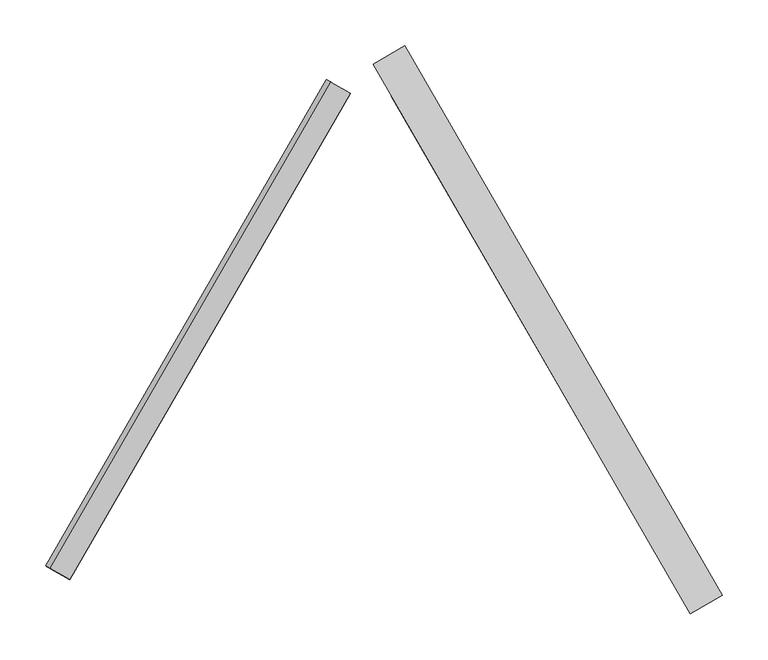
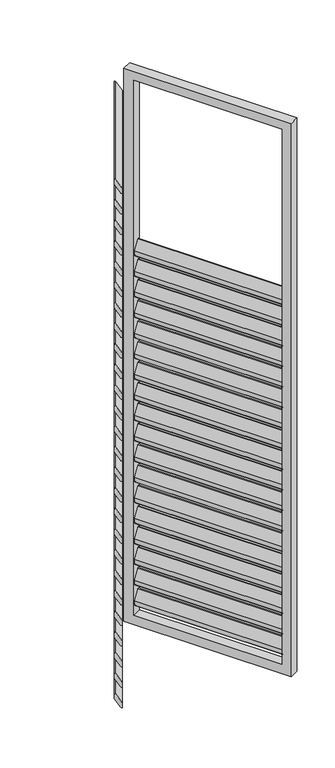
"""IFC4 building model written with IfcOpenShell, lengths in millimetres: proxy geometry, Renson_Amani_Loggia_Paro_Aluminium_Folding : Renson_Amani_Loggia_Paro_Aluminium_Folding."""

from ifc_helpers import new_model, si_unit, point, frame, frame_2d, origin, place, context, project, spatial, polyline, circle_curve, trimmed, segment, composite_curve, outline, extrude, source, transform, mapped, element, save


def generic_models_65c50402(model_context):
    return source(origin(), model_context, "Body", "SweptSolid", [
        extrude(outline(composite_curve([segment(polyline([(-44.0658831, 0.0), (0.8886405, 0.0), (17.0325667, -10.4839883)]), True, "CONTINUOUS"), segment(trimmed(circle_curve(frame_2d((15.3986496, -13.0)), 3.0), [point((17.0325667, -10.4839883))], [point((15.3986496, -16.0))], False, "CARTESIAN"), True, "CONTINUOUS"), segment(polyline([(15.3986496, -16.0), (-28.6672334, -16.0)]), True, "CONTINUOUS"), segment(trimmed(circle_curve(frame_2d((-28.6672334, -13.0)), 3.0), [point((-28.6672334, -16.0))], [point((-30.3011505, -15.5160117))], False, "CARTESIAN"), True, "CONTINUOUS"), segment(polyline([(-30.3011505, -15.5160117), (-45.6998002, -5.5160117)]), True, "CONTINUOUS"), segment(trimmed(circle_curve(frame_2d((-44.0658831, -3.0)), 3.0), [point((-45.6998002, -5.5160117))], [point((-44.0658831, 0.0))], False, "CARTESIAN"), True, "CONTINUOUS")], self_intersect=False)), frame((1092.6094572, 37.7168064, 1677.3359298), z_axis=(-0.5000000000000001, 0.8660254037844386, 0.0), x_axis=(-0.47167124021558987, -0.2723195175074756, -0.8386705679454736)), (0.0, 0.0, 1.0), 612.0),
        extrude(outline(composite_curve([segment(polyline([(-44.0658831, 0.0), (0.8886405, 0.0), (17.0325667, -10.4839883)]), True, "CONTINUOUS"), segment(trimmed(circle_curve(frame_2d((15.3986496, -13.0)), 3.0), [point((17.0325667, -10.4839883))], [point((15.3986496, -16.0))], False, "CARTESIAN"), True, "CONTINUOUS"), segment(polyline([(15.3986496, -16.0), (-28.6672334, -16.0)]), True, "CONTINUOUS"), segment(trimmed(circle_curve(frame_2d((-28.6672334, -13.0)), 3.0), [point((-28.6672334, -16.0))], [point((-30.3011505, -15.5160117))], False, "CARTESIAN"), True, "CONTINUOUS"), segment(polyline([(-30.3011505, -15.5160117), (-45.6998002, -5.5160117)]), True, "CONTINUOUS"), segment(trimmed(circle_curve(frame_2d((-44.0658831, -3.0)), 3.0), [point((-45.6998002, -5.5160117))], [point((-44.0658831, 0.0))], False, "CARTESIAN"), True, "CONTINUOUS")], self_intersect=False)), frame((1092.6094572, 37.7168064, 1587.3359298), z_axis=(-0.5000000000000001, 0.8660254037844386, 0.0), x_axis=(-0.47167124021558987, -0.2723195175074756, -0.8386705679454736)), (0.0, 0.0, 1.0), 612.0),
        extrude(outline(composite_curve([segment(polyline([(-44.0658831, 0.0), (0.8886405, 0.0), (17.0325667, -10.4839883)]), True, "CONTINUOUS"), segment(trimmed(circle_curve(frame_2d((15.3986496, -13.0)), 3.0), [point((17.0325667, -10.4839883))], [point((15.3986496, -16.0))], False, "CARTESIAN"), True, "CONTINUOUS"), segment(polyline([(15.3986496, -16.0), (-28.6672334, -16.0)]), True, "CONTINUOUS"), segment(trimmed(circle_curve(frame_2d((-28.6672334, -13.0)), 3.0), [point((-28.6672334, -16.0))], [point((-30.3011505, -15.5160117))], False, "CARTESIAN"), True, "CONTINUOUS"), segment(polyline([(-30.3011505, -15.5160117), (-45.6998002, -5.5160117)]), True, "CONTINUOUS"), segment(trimmed(circle_curve(frame_2d((-44.0658831, -3.0)), 3.0), [point((-45.6998002, -5.5160117))], [point((-44.0658831, 0.0))], False, "CARTESIAN"), True, "CONTINUOUS")], self_intersect=False)), frame((1092.6094572, 37.7168064, 1497.3359298), z_axis=(-0.5000000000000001, 0.8660254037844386, 0.0), x_axis=(-0.47167124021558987, -0.2723195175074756, -0.8386705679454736)), (0.0, 0.0, 1.0), 612.0),
        extrude(outline(composite_curve([segment(polyline([(-44.0658831, 0.0), (0.8886405, 0.0), (17.0325667, -10.4839883)]), True, "CONTINUOUS"), segment(trimmed(circle_curve(frame_2d((15.3986496, -13.0)), 3.0), [point((17.0325667, -10.4839883))], [point((15.3986496, -16.0))], False, "CARTESIAN"), True, "CONTINUOUS"), segment(polyline([(15.3986496, -16.0), (-28.6672334, -16.0)]), True, "CONTINUOUS"), segment(trimmed(circle_curve(frame_2d((-28.6672334, -13.0)), 3.0), [point((-28.6672334, -16.0))], [point((-30.3011505, -15.5160117))], False, "CARTESIAN"), True, "CONTINUOUS"), segment(polyline([(-30.3011505, -15.5160117), (-45.6998002, -5.5160117)]), True, "CONTINUOUS"), segment(trimmed(circle_curve(frame_2d((-44.0658831, -3.0)), 3.0), [point((-45.6998002, -5.5160117))], [point((-44.0658831, 0.0))], False, "CARTESIAN"), True, "CONTINUOUS")], self_intersect=False)), frame((1092.6094572, 37.7168064, 1407.3359298), z_axis=(-0.5000000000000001, 0.8660254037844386, 0.0), x_axis=(-0.47167124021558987, -0.2723195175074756, -0.8386705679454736)), (0.0, 0.0, 1.0), 612.0),
        extrude(outline(composite_curve([segment(polyline([(-44.0658831, 0.0), (0.8886405, 0.0), (17.0325667, -10.4839883)]), True, "CONTINUOUS"), segment(trimmed(circle_curve(frame_2d((15.3986496, -13.0)), 3.0), [point((17.0325667, -10.4839883))], [point((15.3986496, -16.0))], False, "CARTESIAN"), True, "CONTINUOUS"), segment(polyline([(15.3986496, -16.0), (-28.6672334, -16.0)]), True, "CONTINUOUS"), segment(trimmed(circle_curve(frame_2d((-28.6672334, -13.0)), 3.0), [point((-28.6672334, -16.0))], [point((-30.3011505, -15.5160117))], False, "CARTESIAN"), True, "CONTINUOUS"), segment(polyline([(-30.3011505, -15.5160117), (-45.6998002, -5.5160117)]), True, "CONTINUOUS"), segment(trimmed(circle_curve(frame_2d((-44.0658831, -3.0)), 3.0), [point((-45.6998002, -5.5160117))], [point((-44.0658831, 0.0))], False, "CARTESIAN"), True, "CONTINUOUS")], self_intersect=False)), frame((1092.6094572, 37.7168064, 1317.3359298), z_axis=(-0.5000000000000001, 0.8660254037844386, 0.0), x_axis=(-0.47167124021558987, -0.2723195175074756, -0.8386705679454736)), (0.0, 0.0, 1.0), 612.0),
        extrude(outline(composite_curve([segment(polyline([(-44.0658831, 0.0), (0.8886405, 0.0), (17.0325667, -10.4839883)]), True, "CONTINUOUS"), segment(trimmed(circle_curve(frame_2d((15.3986496, -13.0)), 3.0), [point((17.0325667, -10.4839883))], [point((15.3986496, -16.0))], False, "CARTESIAN"), True, "CONTINUOUS"), segment(polyline([(15.3986496, -16.0), (-28.6672334, -16.0)]), True, "CONTINUOUS"), segment(trimmed(circle_curve(frame_2d((-28.6672334, -13.0)), 3.0), [point((-28.6672334, -16.0))], [point((-30.3011505, -15.5160117))], False, "CARTESIAN"), True, "CONTINUOUS"), segment(polyline([(-30.3011505, -15.5160117), (-45.6998002, -5.5160117)]), True, "CONTINUOUS"), segment(trimmed(circle_curve(frame_2d((-44.0658831, -3.0)), 3.0), [point((-45.6998002, -5.5160117))], [point((-44.0658831, 0.0))], False, "CARTESIAN"), True, "CONTINUOUS")], self_intersect=False)), frame((1092.6094572, 37.7168064, 1227.3359298), z_axis=(-0.5000000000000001, 0.8660254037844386, 0.0), x_axis=(-0.47167124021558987, -0.2723195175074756, -0.8386705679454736)), (0.0, 0.0, 1.0), 612.0),
        extrude(outline(composite_curve([segment(polyline([(-44.0658831, 0.0), (0.8886405, 0.0), (17.0325667, -10.4839883)]), True, "CONTINUOUS"), segment(trimmed(circle_curve(frame_2d((15.3986496, -13.0)), 3.0), [point((17.0325667, -10.4839883))], [point((15.3986496, -16.0))], False, "CARTESIAN"), True, "CONTINUOUS"), segment(polyline([(15.3986496, -16.0), (-28.6672334, -16.0)]), True, "CONTINUOUS"), segment(trimmed(circle_curve(frame_2d((-28.6672334, -13.0)), 3.0), [point((-28.6672334, -16.0))], [point((-30.3011505, -15.5160117))], False, "CARTESIAN"), True, "CONTINUOUS"), segment(polyline([(-30.3011505, -15.5160117), (-45.6998002, -5.5160117)]), True, "CONTINUOUS"), segment(trimmed(circle_curve(frame_2d((-44.0658831, -3.0)), 3.0), [point((-45.6998002, -5.5160117))], [point((-44.0658831, 0.0))], False, "CARTESIAN"), True, "CONTINUOUS")], self_intersect=False)), frame((1092.6094572, 37.7168064, 1137.3359298), z_axis=(-0.5000000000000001, 0.8660254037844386, 0.0), x_axis=(-0.47167124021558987, -0.2723195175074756, -0.8386705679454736)), (0.0, 0.0, 1.0), 612.0),
        extrude(outline(composite_curve([segment(polyline([(-44.0658831, 0.0), (0.8886405, 0.0), (17.0325667, -10.4839883)]), True, "CONTINUOUS"), segment(trimmed(circle_curve(frame_2d((15.3986496, -13.0)), 3.0), [point((17.0325667, -10.4839883))], [point((15.3986496, -16.0))], False, "CARTESIAN"), True, "CONTINUOUS"), segment(polyline([(15.3986496, -16.0), (-28.6672334, -16.0)]), True, "CONTINUOUS"), segment(trimmed(circle_curve(frame_2d((-28.6672334, -13.0)), 3.0), [point((-28.6672334, -16.0))], [point((-30.3011505, -15.5160117))], False, "CARTESIAN"), True, "CONTINUOUS"), segment(polyline([(-30.3011505, -15.5160117), (-45.6998002, -5.5160117)]), True, "CONTINUOUS"), segment(trimmed(circle_curve(frame_2d((-44.0658831, -3.0)), 3.0), [point((-45.6998002, -5.5160117))], [point((-44.0658831, 0.0))], False, "CARTESIAN"), True, "CONTINUOUS")], self_intersect=False)), frame((1092.6094572, 37.7168064, 1047.3359298), z_axis=(-0.5000000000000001, 0.8660254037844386, 0.0), x_axis=(-0.47167124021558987, -0.2723195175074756, -0.8386705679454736)), (0.0, 0.0, 1.0), 612.0),
        extrude(outline(composite_curve([segment(polyline([(-44.0658831, 0.0), (0.8886405, 0.0), (17.0325667, -10.4839883)]), True, "CONTINUOUS"), segment(trimmed(circle_curve(frame_2d((15.3986496, -13.0)), 3.0), [point((17.0325667, -10.4839883))], [point((15.3986496, -16.0))], False, "CARTESIAN"), True, "CONTINUOUS"), segment(polyline([(15.3986496, -16.0), (-28.6672334, -16.0)]), True, "CONTINUOUS"), segment(trimmed(circle_curve(frame_2d((-28.6672334, -13.0)), 3.0), [point((-28.6672334, -16.0))], [point((-30.3011505, -15.5160117))], False, "CARTESIAN"), True, "CONTINUOUS"), segment(polyline([(-30.3011505, -15.5160117), (-45.6998002, -5.5160117)]), True, "CONTINUOUS"), segment(trimmed(circle_curve(frame_2d((-44.0658831, -3.0)), 3.0), [point((-45.6998002, -5.5160117))], [point((-44.0658831, 0.0))], False, "CARTESIAN"), True, "CONTINUOUS")], self_intersect=False)), frame((1092.6094572, 37.7168064, 957.3359298), z_axis=(-0.5000000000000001, 0.8660254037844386, 0.0), x_axis=(-0.47167124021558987, -0.2723195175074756, -0.8386705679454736)), (0.0, 0.0, 1.0), 612.0),
        extrude(outline(composite_curve([segment(polyline([(-44.0658831, 0.0), (0.8886405, 0.0), (17.0325667, -10.4839883)]), True, "CONTINUOUS"), segment(trimmed(circle_curve(frame_2d((15.3986496, -13.0)), 3.0), [point((17.0325667, -10.4839883))], [point((15.3986496, -16.0))], False, "CARTESIAN"), True, "CONTINUOUS"), segment(polyline([(15.3986496, -16.0), (-28.6672334, -16.0)]), True, "CONTINUOUS"), segment(trimmed(circle_curve(frame_2d((-28.6672334, -13.0)), 3.0), [point((-28.6672334, -16.0))], [point((-30.3011505, -15.5160117))], False, "CARTESIAN"), True, "CONTINUOUS"), segment(polyline([(-30.3011505, -15.5160117), (-45.6998002, -5.5160117)]), True, "CONTINUOUS"), segment(trimmed(circle_curve(frame_2d((-44.0658831, -3.0)), 3.0), [point((-45.6998002, -5.5160117))], [point((-44.0658831, 0.0))], False, "CARTESIAN"), True, "CONTINUOUS")], self_intersect=False)), frame((1092.6094572, 37.7168064, 867.3359298), z_axis=(-0.5000000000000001, 0.8660254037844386, 0.0), x_axis=(-0.47167124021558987, -0.2723195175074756, -0.8386705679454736)), (0.0, 0.0, 1.0), 612.0),
        extrude(outline(composite_curve([segment(polyline([(-44.0658831, 0.0), (0.8886405, 0.0), (17.0325667, -10.4839883)]), True, "CONTINUOUS"), segment(trimmed(circle_curve(frame_2d((15.3986496, -13.0)), 3.0), [point((17.0325667, -10.4839883))], [point((15.3986496, -16.0))], False, "CARTESIAN"), True, "CONTINUOUS"), segment(polyline([(15.3986496, -16.0), (-28.6672334, -16.0)]), True, "CONTINUOUS"), segment(trimmed(circle_curve(frame_2d((-28.6672334, -13.0)), 3.0), [point((-28.6672334, -16.0))], [point((-30.3011505, -15.5160117))], False, "CARTESIAN"), True, "CONTINUOUS"), segment(polyline([(-30.3011505, -15.5160117), (-45.6998002, -5.5160117)]), True, "CONTINUOUS"), segment(trimmed(circle_curve(frame_2d((-44.0658831, -3.0)), 3.0), [point((-45.6998002, -5.5160117))], [point((-44.0658831, 0.0))], False, "CARTESIAN"), True, "CONTINUOUS")], self_intersect=False)), frame((1092.6094572, 37.7168064, 777.3359298), z_axis=(-0.5000000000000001, 0.8660254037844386, 0.0), x_axis=(-0.47167124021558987, -0.2723195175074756, -0.8386705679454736)), (0.0, 0.0, 1.0), 612.0),
        extrude(outline(composite_curve([segment(polyline([(-44.0658831, 0.0), (0.8886405, 0.0), (17.0325667, -10.4839883)]), True, "CONTINUOUS"), segment(trimmed(circle_curve(frame_2d((15.3986496, -13.0)), 3.0), [point((17.0325667, -10.4839883))], [point((15.3986496, -16.0))], False, "CARTESIAN"), True, "CONTINUOUS"), segment(polyline([(15.3986496, -16.0), (-28.6672334, -16.0)]), True, "CONTINUOUS"), segment(trimmed(circle_curve(frame_2d((-28.6672334, -13.0)), 3.0), [point((-28.6672334, -16.0))], [point((-30.3011505, -15.5160117))], False, "CARTESIAN"), True, "CONTINUOUS"), segment(polyline([(-30.3011505, -15.5160117), (-45.6998002, -5.5160117)]), True, "CONTINUOUS"), segment(trimmed(circle_curve(frame_2d((-44.0658831, -3.0)), 3.0), [point((-45.6998002, -5.5160117))], [point((-44.0658831, 0.0))], False, "CARTESIAN"), True, "CONTINUOUS")], self_intersect=False)), frame((1092.6094572, 37.7168064, 687.3359298), z_axis=(-0.5000000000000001, 0.8660254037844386, 0.0), x_axis=(-0.47167124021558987, -0.2723195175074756, -0.8386705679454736)), (0.0, 0.0, 1.0), 612.0),
        extrude(outline(composite_curve([segment(polyline([(-44.0658831, 0.0), (0.8886405, 0.0), (17.0325667, -10.4839883)]), True, "CONTINUOUS"), segment(trimmed(circle_curve(frame_2d((15.3986496, -13.0)), 3.0), [point((17.0325667, -10.4839883))], [point((15.3986496, -16.0))], False, "CARTESIAN"), True, "CONTINUOUS"), segment(polyline([(15.3986496, -16.0), (-28.6672334, -16.0)]), True, "CONTINUOUS"), segment(trimmed(circle_curve(frame_2d((-28.6672334, -13.0)), 3.0), [point((-28.6672334, -16.0))], [point((-30.3011505, -15.5160117))], False, "CARTESIAN"), True, "CONTINUOUS"), segment(polyline([(-30.3011505, -15.5160117), (-45.6998002, -5.5160117)]), True, "CONTINUOUS"), segment(trimmed(circle_curve(frame_2d((-44.0658831, -3.0)), 3.0), [point((-45.6998002, -5.5160117))], [point((-44.0658831, 0.0))], False, "CARTESIAN"), True, "CONTINUOUS")], self_intersect=False)), frame((1092.6094572, 37.7168064, 597.3359298), z_axis=(-0.5000000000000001, 0.8660254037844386, 0.0), x_axis=(-0.47167124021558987, -0.2723195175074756, -0.8386705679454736)), (0.0, 0.0, 1.0), 612.0),
        extrude(outline(composite_curve([segment(polyline([(-44.0658831, 0.0), (0.8886405, 0.0), (17.0325667, -10.4839883)]), True, "CONTINUOUS"), segment(trimmed(circle_curve(frame_2d((15.3986496, -13.0)), 3.0), [point((17.0325667, -10.4839883))], [point((15.3986496, -16.0))], False, "CARTESIAN"), True, "CONTINUOUS"), segment(polyline([(15.3986496, -16.0), (-28.6672334, -16.0)]), True, "CONTINUOUS"), segment(trimmed(circle_curve(frame_2d((-28.6672334, -13.0)), 3.0), [point((-28.6672334, -16.0))], [point((-30.3011505, -15.5160117))], False, "CARTESIAN"), True, "CONTINUOUS"), segment(polyline([(-30.3011505, -15.5160117), (-45.6998002, -5.5160117)]), True, "CONTINUOUS"), segment(trimmed(circle_curve(frame_2d((-44.0658831, -3.0)), 3.0), [point((-45.6998002, -5.5160117))], [point((-44.0658831, 0.0))], False, "CARTESIAN"), True, "CONTINUOUS")], self_intersect=False)), frame((1092.6094572, 37.7168064, 507.3359298), z_axis=(-0.5000000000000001, 0.8660254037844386, 0.0), x_axis=(-0.47167124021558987, -0.2723195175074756, -0.8386705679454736)), (0.0, 0.0, 1.0), 612.0),
        extrude(outline(composite_curve([segment(polyline([(-44.0658831, 0.0), (0.8886405, 0.0), (17.0325667, -10.4839883)]), True, "CONTINUOUS"), segment(trimmed(circle_curve(frame_2d((15.3986496, -13.0)), 3.0), [point((17.0325667, -10.4839883))], [point((15.3986496, -16.0))], False, "CARTESIAN"), True, "CONTINUOUS"), segment(polyline([(15.3986496, -16.0), (-28.6672334, -16.0)]), True, "CONTINUOUS"), segment(trimmed(circle_curve(frame_2d((-28.6672334, -13.0)), 3.0), [point((-28.6672334, -16.0))], [point((-30.3011505, -15.5160117))], False, "CARTESIAN"), True, "CONTINUOUS"), segment(polyline([(-30.3011505, -15.5160117), (-45.6998002, -5.5160117)]), True, "CONTINUOUS"), segment(trimmed(circle_curve(frame_2d((-44.0658831, -3.0)), 3.0), [point((-45.6998002, -5.5160117))], [point((-44.0658831, 0.0))], False, "CARTESIAN"), True, "CONTINUOUS")], self_intersect=False)), frame((1092.6094572, 37.7168064, 417.3359298), z_axis=(-0.5000000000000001, 0.8660254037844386, 0.0), x_axis=(-0.47167124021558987, -0.2723195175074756, -0.8386705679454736)), (0.0, 0.0, 1.0), 612.0),
        extrude(outline(composite_curve([segment(polyline([(-44.0658831, 0.0), (0.8886405, 0.0), (17.0325667, -10.4839883)]), True, "CONTINUOUS"), segment(trimmed(circle_curve(frame_2d((15.3986496, -13.0)), 3.0), [point((17.0325667, -10.4839883))], [point((15.3986496, -16.0))], False, "CARTESIAN"), True, "CONTINUOUS"), segment(polyline([(15.3986496, -16.0), (-28.6672334, -16.0)]), True, "CONTINUOUS"), segment(trimmed(circle_curve(frame_2d((-28.6672334, -13.0)), 3.0), [point((-28.6672334, -16.0))], [point((-30.3011505, -15.5160117))], False, "CARTESIAN"), True, "CONTINUOUS"), segment(polyline([(-30.3011505, -15.5160117), (-45.6998002, -5.5160117)]), True, "CONTINUOUS"), segment(trimmed(circle_curve(frame_2d((-44.0658831, -3.0)), 3.0), [point((-45.6998002, -5.5160117))], [point((-44.0658831, 0.0))], False, "CARTESIAN"), True, "CONTINUOUS")], self_intersect=False)), frame((1092.6094572, 37.7168064, 327.3359298), z_axis=(-0.5000000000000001, 0.8660254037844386, 0.0), x_axis=(-0.47167124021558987, -0.2723195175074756, -0.8386705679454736)), (0.0, 0.0, 1.0), 612.0),
        extrude(outline(composite_curve([segment(polyline([(-44.0658831, 0.0), (0.8886405, 0.0), (17.0325667, -10.4839883)]), True, "CONTINUOUS"), segment(trimmed(circle_curve(frame_2d((15.3986496, -13.0)), 3.0), [point((17.0325667, -10.4839883))], [point((15.3986496, -16.0))], False, "CARTESIAN"), True, "CONTINUOUS"), segment(polyline([(15.3986496, -16.0), (-28.6672334, -16.0)]), True, "CONTINUOUS"), segment(trimmed(circle_curve(frame_2d((-28.6672334, -13.0)), 3.0), [point((-28.6672334, -16.0))], [point((-30.3011505, -15.5160117))], False, "CARTESIAN"), True, "CONTINUOUS"), segment(polyline([(-30.3011505, -15.5160117), (-45.6998002, -5.5160117)]), True, "CONTINUOUS"), segment(trimmed(circle_curve(frame_2d((-44.0658831, -3.0)), 3.0), [point((-45.6998002, -5.5160117))], [point((-44.0658831, 0.0))], False, "CARTESIAN"), True, "CONTINUOUS")], self_intersect=False)), frame((1092.6094572, 37.7168064, 237.3359298), z_axis=(-0.5000000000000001, 0.8660254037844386, 0.0), x_axis=(-0.47167124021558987, -0.2723195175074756, -0.8386705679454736)), (0.0, 0.0, 1.0), 612.0),
        extrude(outline(composite_curve([segment(polyline([(-44.0658831, 0.0), (0.8886405, 0.0), (17.0325667, -10.4839883)]), True, "CONTINUOUS"), segment(trimmed(circle_curve(frame_2d((15.3986496, -13.0)), 3.0), [point((17.0325667, -10.4839883))], [point((15.3986496, -16.0))], False, "CARTESIAN"), True, "CONTINUOUS"), segment(polyline([(15.3986496, -16.0), (-28.6672334, -16.0)]), True, "CONTINUOUS"), segment(trimmed(circle_curve(frame_2d((-28.6672334, -13.0)), 3.0), [point((-28.6672334, -16.0))], [point((-30.3011505, -15.5160117))], False, "CARTESIAN"), True, "CONTINUOUS"), segment(polyline([(-30.3011505, -15.5160117), (-45.6998002, -5.5160117)]), True, "CONTINUOUS"), segment(trimmed(circle_curve(frame_2d((-44.0658831, -3.0)), 3.0), [point((-45.6998002, -5.5160117))], [point((-44.0658831, 0.0))], False, "CARTESIAN"), True, "CONTINUOUS")], self_intersect=False)), frame((1092.6094572, 37.7168064, 147.3359298), z_axis=(-0.5000000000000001, 0.8660254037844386, 0.0), x_axis=(-0.47167124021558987, -0.2723195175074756, -0.8386705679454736)), (0.0, 0.0, 1.0), 612.0),
        extrude(outline(polyline([(2380.0, -40.0), (-40.0, -40.0), (-40.0, 652.0), (2380.0, 652.0), (2380.0, -40.0)]), holes=[polyline([(2340.0, 612.0), (0.0, 612.0), (0.0, 0.0), (2340.0, 0.0), (2340.0, 612.0)])]), frame((781.2820323, 564.6485633, 85.0), z_axis=(0.8660254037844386, 0.5000000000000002, 0.0), x_axis=(0.0, 0.0, 1.0)), (0.0, 0.0, 1.0), 40.0),
        extrude(outline(composite_curve([segment(trimmed(circle_curve(frame_2d((44.0658831, -3.0)), 3.0), [point((44.0658831, 0.0))], [point((45.6998002, -5.5160117))], False, "CARTESIAN"), True, "CONTINUOUS"), segment(polyline([(45.6998002, -5.5160117), (30.3011505, -15.5160117)]), True, "CONTINUOUS"), segment(trimmed(circle_curve(frame_2d((28.6672334, -13.0)), 3.0), [point((30.3011505, -15.5160117))], [point((28.6672334, -16.0))], False, "CARTESIAN"), True, "CONTINUOUS"), segment(polyline([(28.6672334, -16.0), (-15.3986496, -16.0)]), True, "CONTINUOUS"), segment(trimmed(circle_curve(frame_2d((-15.3986496, -13.0)), 3.0), [point((-15.3986496, -16.0))], [point((-17.0325667, -10.4839883))], False, "CARTESIAN"), True, "CONTINUOUS"), segment(polyline([(-17.0325667, -10.4839883), (-0.8886405, 0.0), (44.0658831, 0.0)]), True, "CONTINUOUS")], self_intersect=False)), frame((429.9546074, 37.7168064, 2397.3359298), z_axis=(0.5000000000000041, 0.8660254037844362, 0.0), x_axis=(-0.47167124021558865, 0.2723195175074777, 0.8386705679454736)), (0.0, 0.0, 1.0), 612.0),
        extrude(outline(composite_curve([segment(trimmed(circle_curve(frame_2d((44.0658831, -3.0)), 3.0), [point((44.0658831, 0.0))], [point((45.6998002, -5.5160117))], False, "CARTESIAN"), True, "CONTINUOUS"), segment(polyline([(45.6998002, -5.5160117), (30.3011505, -15.5160117)]), True, "CONTINUOUS"), segment(trimmed(circle_curve(frame_2d((28.6672334, -13.0)), 3.0), [point((30.3011505, -15.5160117))], [point((28.6672334, -16.0))], False, "CARTESIAN"), True, "CONTINUOUS"), segment(polyline([(28.6672334, -16.0), (-15.3986496, -16.0)]), True, "CONTINUOUS"), segment(trimmed(circle_curve(frame_2d((-15.3986496, -13.0)), 3.0), [point((-15.3986496, -16.0))], [point((-17.0325667, -10.4839883))], False, "CARTESIAN"), True, "CONTINUOUS"), segment(polyline([(-17.0325667, -10.4839883), (-0.8886405, 0.0), (44.0658831, 0.0)]), True, "CONTINUOUS")], self_intersect=False)), frame((429.9546074, 37.7168064, 2307.3359298), z_axis=(0.5000000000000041, 0.8660254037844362, 0.0), x_axis=(-0.47167124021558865, 0.2723195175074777, 0.8386705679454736)), (0.0, 0.0, 1.0), 612.0),
        extrude(outline(composite_curve([segment(trimmed(circle_curve(frame_2d((44.0658831, -3.0)), 3.0), [point((44.0658831, 0.0))], [point((45.6998002, -5.5160117))], False, "CARTESIAN"), True, "CONTINUOUS"), segment(polyline([(45.6998002, -5.5160117), (30.3011505, -15.5160117)]), True, "CONTINUOUS"), segment(trimmed(circle_curve(frame_2d((28.6672334, -13.0)), 3.0), [point((30.3011505, -15.5160117))], [point((28.6672334, -16.0))], False, "CARTESIAN"), True, "CONTINUOUS"), segment(polyline([(28.6672334, -16.0), (-15.3986496, -16.0)]), True, "CONTINUOUS"), segment(trimmed(circle_curve(frame_2d((-15.3986496, -13.0)), 3.0), [point((-15.3986496, -16.0))], [point((-17.0325667, -10.4839883))], False, "CARTESIAN"), True, "CONTINUOUS"), segment(polyline([(-17.0325667, -10.4839883), (-0.8886405, 0.0), (44.0658831, 0.0)]), True, "CONTINUOUS")], self_intersect=False)), frame((429.9546074, 37.7168064, 2217.3359298), z_axis=(0.5000000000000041, 0.8660254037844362, 0.0), x_axis=(-0.47167124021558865, 0.2723195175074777, 0.8386705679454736)), (0.0, 0.0, 1.0), 612.0),
        extrude(outline(composite_curve([segment(trimmed(circle_curve(frame_2d((44.0658831, -3.0)), 3.0), [point((44.0658831, 0.0))], [point((45.6998002, -5.5160117))], False, "CARTESIAN"), True, "CONTINUOUS"), segment(polyline([(45.6998002, -5.5160117), (30.3011505, -15.5160117)]), True, "CONTINUOUS"), segment(trimmed(circle_curve(frame_2d((28.6672334, -13.0)), 3.0), [point((30.3011505, -15.5160117))], [point((28.6672334, -16.0))], False, "CARTESIAN"), True, "CONTINUOUS"), segment(polyline([(28.6672334, -16.0), (-15.3986496, -16.0)]), True, "CONTINUOUS"), segment(trimmed(circle_curve(frame_2d((-15.3986496, -13.0)), 3.0), [point((-15.3986496, -16.0))], [point((-17.0325667, -10.4839883))], False, "CARTESIAN"), True, "CONTINUOUS"), segment(polyline([(-17.0325667, -10.4839883), (-0.8886405, 0.0), (44.0658831, 0.0)]), True, "CONTINUOUS")], self_intersect=False)), frame((429.9546074, 37.7168064, 2127.3359298), z_axis=(0.5000000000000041, 0.8660254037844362, 0.0), x_axis=(-0.47167124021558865, 0.2723195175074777, 0.8386705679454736)), (0.0, 0.0, 1.0), 612.0),
        extrude(outline(composite_curve([segment(trimmed(circle_curve(frame_2d((44.0658831, -3.0)), 3.0), [point((44.0658831, 0.0))], [point((45.6998002, -5.5160117))], False, "CARTESIAN"), True, "CONTINUOUS"), segment(polyline([(45.6998002, -5.5160117), (30.3011505, -15.5160117)]), True, "CONTINUOUS"), segment(trimmed(circle_curve(frame_2d((28.6672334, -13.0)), 3.0), [point((30.3011505, -15.5160117))], [point((28.6672334, -16.0))], False, "CARTESIAN"), True, "CONTINUOUS"), segment(polyline([(28.6672334, -16.0), (-15.3986496, -16.0)]), True, "CONTINUOUS"), segment(trimmed(circle_curve(frame_2d((-15.3986496, -13.0)), 3.0), [point((-15.3986496, -16.0))], [point((-17.0325667, -10.4839883))], False, "CARTESIAN"), True, "CONTINUOUS"), segment(polyline([(-17.0325667, -10.4839883), (-0.8886405, 0.0), (44.0658831, 0.0)]), True, "CONTINUOUS")], self_intersect=False)), frame((429.9546074, 37.7168064, 2037.3359298), z_axis=(0.5000000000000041, 0.8660254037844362, 0.0), x_axis=(-0.47167124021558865, 0.2723195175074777, 0.8386705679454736)), (0.0, 0.0, 1.0), 612.0),
        extrude(outline(composite_curve([segment(trimmed(circle_curve(frame_2d((44.0658831, -3.0)), 3.0), [point((44.0658831, 0.0))], [point((45.6998002, -5.5160117))], False, "CARTESIAN"), True, "CONTINUOUS"), segment(polyline([(45.6998002, -5.5160117), (30.3011505, -15.5160117)]), True, "CONTINUOUS"), segment(trimmed(circle_curve(frame_2d((28.6672334, -13.0)), 3.0), [point((30.3011505, -15.5160117))], [point((28.6672334, -16.0))], False, "CARTESIAN"), True, "CONTINUOUS"), segment(polyline([(28.6672334, -16.0), (-15.3986496, -16.0)]), True, "CONTINUOUS"), segment(trimmed(circle_curve(frame_2d((-15.3986496, -13.0)), 3.0), [point((-15.3986496, -16.0))], [point((-17.0325667, -10.4839883))], False, "CARTESIAN"), True, "CONTINUOUS"), segment(polyline([(-17.0325667, -10.4839883), (-0.8886405, 0.0), (44.0658831, 0.0)]), True, "CONTINUOUS")], self_intersect=False)), frame((429.9546074, 37.7168064, 1947.3359298), z_axis=(0.5000000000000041, 0.8660254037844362, 0.0), x_axis=(-0.47167124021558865, 0.2723195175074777, 0.8386705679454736)), (0.0, 0.0, 1.0), 612.0),
        extrude(outline(composite_curve([segment(trimmed(circle_curve(frame_2d((44.0658831, -3.0)), 3.0), [point((44.0658831, 0.0))], [point((45.6998002, -5.5160117))], False, "CARTESIAN"), True, "CONTINUOUS"), segment(polyline([(45.6998002, -5.5160117), (30.3011505, -15.5160117)]), True, "CONTINUOUS"), segment(trimmed(circle_curve(frame_2d((28.6672334, -13.0)), 3.0), [point((30.3011505, -15.5160117))], [point((28.6672334, -16.0))], False, "CARTESIAN"), True, "CONTINUOUS"), segment(polyline([(28.6672334, -16.0), (-15.3986496, -16.0)]), True, "CONTINUOUS"), segment(trimmed(circle_curve(frame_2d((-15.3986496, -13.0)), 3.0), [point((-15.3986496, -16.0))], [point((-17.0325667, -10.4839883))], False, "CARTESIAN"), True, "CONTINUOUS"), segment(polyline([(-17.0325667, -10.4839883), (-0.8886405, 0.0), (44.0658831, 0.0)]), True, "CONTINUOUS")], self_intersect=False)), frame((429.9546074, 37.7168064, 1857.3359298), z_axis=(0.5000000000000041, 0.8660254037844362, 0.0), x_axis=(-0.47167124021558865, 0.2723195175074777, 0.8386705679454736)), (0.0, 0.0, 1.0), 612.0),
        extrude(outline(composite_curve([segment(trimmed(circle_curve(frame_2d((44.0658831, -3.0)), 3.0), [point((44.0658831, 0.0))], [point((45.6998002, -5.5160117))], False, "CARTESIAN"), True, "CONTINUOUS"), segment(polyline([(45.6998002, -5.5160117), (30.3011505, -15.5160117)]), True, "CONTINUOUS"), segment(trimmed(circle_curve(frame_2d((28.6672334, -13.0)), 3.0), [point((30.3011505, -15.5160117))], [point((28.6672334, -16.0))], False, "CARTESIAN"), True, "CONTINUOUS"), segment(polyline([(28.6672334, -16.0), (-15.3986496, -16.0)]), True, "CONTINUOUS"), segment(trimmed(circle_curve(frame_2d((-15.3986496, -13.0)), 3.0), [point((-15.3986496, -16.0))], [point((-17.0325667, -10.4839883))], False, "CARTESIAN"), True, "CONTINUOUS"), segment(polyline([(-17.0325667, -10.4839883), (-0.8886405, 0.0), (44.0658831, 0.0)]), True, "CONTINUOUS")], self_intersect=False)), frame((429.9546074, 37.7168064, 1767.3359298), z_axis=(0.5000000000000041, 0.8660254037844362, 0.0), x_axis=(-0.47167124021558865, 0.2723195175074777, 0.8386705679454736)), (0.0, 0.0, 1.0), 612.0),
        extrude(outline(composite_curve([segment(trimmed(circle_curve(frame_2d((44.0658831, -3.0)), 3.0), [point((44.0658831, 0.0))], [point((45.6998002, -5.5160117))], False, "CARTESIAN"), True, "CONTINUOUS"), segment(polyline([(45.6998002, -5.5160117), (30.3011505, -15.5160117)]), True, "CONTINUOUS"), segment(trimmed(circle_curve(frame_2d((28.6672334, -13.0)), 3.0), [point((30.3011505, -15.5160117))], [point((28.6672334, -16.0))], False, "CARTESIAN"), True, "CONTINUOUS"), segment(polyline([(28.6672334, -16.0), (-15.3986496, -16.0)]), True, "CONTINUOUS"), segment(trimmed(circle_curve(frame_2d((-15.3986496, -13.0)), 3.0), [point((-15.3986496, -16.0))], [point((-17.0325667, -10.4839883))], False, "CARTESIAN"), True, "CONTINUOUS"), segment(polyline([(-17.0325667, -10.4839883), (-0.8886405, 0.0), (44.0658831, 0.0)]), True, "CONTINUOUS")], self_intersect=False)), frame((429.9546074, 37.7168064, 1677.3359298), z_axis=(0.5000000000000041, 0.8660254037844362, 0.0), x_axis=(-0.47167124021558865, 0.2723195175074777, 0.8386705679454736)), (0.0, 0.0, 1.0), 612.0),
        extrude(outline(composite_curve([segment(trimmed(circle_curve(frame_2d((44.0658831, -3.0)), 3.0), [point((44.0658831, 0.0))], [point((45.6998002, -5.5160117))], False, "CARTESIAN"), True, "CONTINUOUS"), segment(polyline([(45.6998002, -5.5160117), (30.3011505, -15.5160117)]), True, "CONTINUOUS"), segment(trimmed(circle_curve(frame_2d((28.6672334, -13.0)), 3.0), [point((30.3011505, -15.5160117))], [point((28.6672334, -16.0))], False, "CARTESIAN"), True, "CONTINUOUS"), segment(polyline([(28.6672334, -16.0), (-15.3986496, -16.0)]), True, "CONTINUOUS"), segment(trimmed(circle_curve(frame_2d((-15.3986496, -13.0)), 3.0), [point((-15.3986496, -16.0))], [point((-17.0325667, -10.4839883))], False, "CARTESIAN"), True, "CONTINUOUS"), segment(polyline([(-17.0325667, -10.4839883), (-0.8886405, 0.0), (44.0658831, 0.0)]), True, "CONTINUOUS")], self_intersect=False)), frame((429.9546074, 37.7168064, 1587.3359298), z_axis=(0.5000000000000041, 0.8660254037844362, 0.0), x_axis=(-0.47167124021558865, 0.2723195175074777, 0.8386705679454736)), (0.0, 0.0, 1.0), 612.0),
        extrude(outline(composite_curve([segment(trimmed(circle_curve(frame_2d((44.0658831, -3.0)), 3.0), [point((44.0658831, 0.0))], [point((45.6998002, -5.5160117))], False, "CARTESIAN"), True, "CONTINUOUS"), segment(polyline([(45.6998002, -5.5160117), (30.3011505, -15.5160117)]), True, "CONTINUOUS"), segment(trimmed(circle_curve(frame_2d((28.6672334, -13.0)), 3.0), [point((30.3011505, -15.5160117))], [point((28.6672334, -16.0))], False, "CARTESIAN"), True, "CONTINUOUS"), segment(polyline([(28.6672334, -16.0), (-15.3986496, -16.0)]), True, "CONTINUOUS"), segment(trimmed(circle_curve(frame_2d((-15.3986496, -13.0)), 3.0), [point((-15.3986496, -16.0))], [point((-17.0325667, -10.4839883))], False, "CARTESIAN"), True, "CONTINUOUS"), segment(polyline([(-17.0325667, -10.4839883), (-0.8886405, 0.0), (44.0658831, 0.0)]), True, "CONTINUOUS")], self_intersect=False)), frame((429.9546074, 37.7168064, 1497.3359298), z_axis=(0.5000000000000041, 0.8660254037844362, 0.0), x_axis=(-0.47167124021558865, 0.2723195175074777, 0.8386705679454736)), (0.0, 0.0, 1.0), 612.0),
        extrude(outline(composite_curve([segment(trimmed(circle_curve(frame_2d((44.0658831, -3.0)), 3.0), [point((44.0658831, 0.0))], [point((45.6998002, -5.5160117))], False, "CARTESIAN"), True, "CONTINUOUS"), segment(polyline([(45.6998002, -5.5160117), (30.3011505, -15.5160117)]), True, "CONTINUOUS"), segment(trimmed(circle_curve(frame_2d((28.6672334, -13.0)), 3.0), [point((30.3011505, -15.5160117))], [point((28.6672334, -16.0))], False, "CARTESIAN"), True, "CONTINUOUS"), segment(polyline([(28.6672334, -16.0), (-15.3986496, -16.0)]), True, "CONTINUOUS"), segment(trimmed(circle_curve(frame_2d((-15.3986496, -13.0)), 3.0), [point((-15.3986496, -16.0))], [point((-17.0325667, -10.4839883))], False, "CARTESIAN"), True, "CONTINUOUS"), segment(polyline([(-17.0325667, -10.4839883), (-0.8886405, 0.0), (44.0658831, 0.0)]), True, "CONTINUOUS")], self_intersect=False)), frame((429.9546074, 37.7168064, 1407.3359298), z_axis=(0.5000000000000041, 0.8660254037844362, 0.0), x_axis=(-0.47167124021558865, 0.2723195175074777, 0.8386705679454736)), (0.0, 0.0, 1.0), 612.0),
        extrude(outline(composite_curve([segment(trimmed(circle_curve(frame_2d((44.0658831, -3.0)), 3.0), [point((44.0658831, 0.0))], [point((45.6998002, -5.5160117))], False, "CARTESIAN"), True, "CONTINUOUS"), segment(polyline([(45.6998002, -5.5160117), (30.3011505, -15.5160117)]), True, "CONTINUOUS"), segment(trimmed(circle_curve(frame_2d((28.6672334, -13.0)), 3.0), [point((30.3011505, -15.5160117))], [point((28.6672334, -16.0))], False, "CARTESIAN"), True, "CONTINUOUS"), segment(polyline([(28.6672334, -16.0), (-15.3986496, -16.0)]), True, "CONTINUOUS"), segment(trimmed(circle_curve(frame_2d((-15.3986496, -13.0)), 3.0), [point((-15.3986496, -16.0))], [point((-17.0325667, -10.4839883))], False, "CARTESIAN"), True, "CONTINUOUS"), segment(polyline([(-17.0325667, -10.4839883), (-0.8886405, 0.0), (44.0658831, 0.0)]), True, "CONTINUOUS")], self_intersect=False)), frame((429.9546074, 37.7168064, 1317.3359298), z_axis=(0.5000000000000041, 0.8660254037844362, 0.0), x_axis=(-0.47167124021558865, 0.2723195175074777, 0.8386705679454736)), (0.0, 0.0, 1.0), 612.0),
        extrude(outline(composite_curve([segment(trimmed(circle_curve(frame_2d((44.0658831, -3.0)), 3.0), [point((44.0658831, 0.0))], [point((45.6998002, -5.5160117))], False, "CARTESIAN"), True, "CONTINUOUS"), segment(polyline([(45.6998002, -5.5160117), (30.3011505, -15.5160117)]), True, "CONTINUOUS"), segment(trimmed(circle_curve(frame_2d((28.6672334, -13.0)), 3.0), [point((30.3011505, -15.5160117))], [point((28.6672334, -16.0))], False, "CARTESIAN"), True, "CONTINUOUS"), segment(polyline([(28.6672334, -16.0), (-15.3986496, -16.0)]), True, "CONTINUOUS"), segment(trimmed(circle_curve(frame_2d((-15.3986496, -13.0)), 3.0), [point((-15.3986496, -16.0))], [point((-17.0325667, -10.4839883))], False, "CARTESIAN"), True, "CONTINUOUS"), segment(polyline([(-17.0325667, -10.4839883), (-0.8886405, 0.0), (44.0658831, 0.0)]), True, "CONTINUOUS")], self_intersect=False)), frame((429.9546074, 37.7168064, 1227.3359298), z_axis=(0.5000000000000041, 0.8660254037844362, 0.0), x_axis=(-0.47167124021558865, 0.2723195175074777, 0.8386705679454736)), (0.0, 0.0, 1.0), 612.0),
        extrude(outline(composite_curve([segment(trimmed(circle_curve(frame_2d((44.0658831, -3.0)), 3.0), [point((44.0658831, 0.0))], [point((45.6998002, -5.5160117))], False, "CARTESIAN"), True, "CONTINUOUS"), segment(polyline([(45.6998002, -5.5160117), (30.3011505, -15.5160117)]), True, "CONTINUOUS"), segment(trimmed(circle_curve(frame_2d((28.6672334, -13.0)), 3.0), [point((30.3011505, -15.5160117))], [point((28.6672334, -16.0))], False, "CARTESIAN"), True, "CONTINUOUS"), segment(polyline([(28.6672334, -16.0), (-15.3986496, -16.0)]), True, "CONTINUOUS"), segment(trimmed(circle_curve(frame_2d((-15.3986496, -13.0)), 3.0), [point((-15.3986496, -16.0))], [point((-17.0325667, -10.4839883))], False, "CARTESIAN"), True, "CONTINUOUS"), segment(polyline([(-17.0325667, -10.4839883), (-0.8886405, 0.0), (44.0658831, 0.0)]), True, "CONTINUOUS")], self_intersect=False)), frame((429.9546074, 37.7168064, 1137.3359298), z_axis=(0.5000000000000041, 0.8660254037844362, 0.0), x_axis=(-0.47167124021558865, 0.2723195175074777, 0.8386705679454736)), (0.0, 0.0, 1.0), 612.0),
        extrude(outline(composite_curve([segment(trimmed(circle_curve(frame_2d((44.0658831, -3.0)), 3.0), [point((44.0658831, 0.0))], [point((45.6998002, -5.5160117))], False, "CARTESIAN"), True, "CONTINUOUS"), segment(polyline([(45.6998002, -5.5160117), (30.3011505, -15.5160117)]), True, "CONTINUOUS"), segment(trimmed(circle_curve(frame_2d((28.6672334, -13.0)), 3.0), [point((30.3011505, -15.5160117))], [point((28.6672334, -16.0))], False, "CARTESIAN"), True, "CONTINUOUS"), segment(polyline([(28.6672334, -16.0), (-15.3986496, -16.0)]), True, "CONTINUOUS"), segment(trimmed(circle_curve(frame_2d((-15.3986496, -13.0)), 3.0), [point((-15.3986496, -16.0))], [point((-17.0325667, -10.4839883))], False, "CARTESIAN"), True, "CONTINUOUS"), segment(polyline([(-17.0325667, -10.4839883), (-0.8886405, 0.0), (44.0658831, 0.0)]), True, "CONTINUOUS")], self_intersect=False)), frame((429.9546074, 37.7168064, 1047.3359298), z_axis=(0.5000000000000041, 0.8660254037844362, 0.0), x_axis=(-0.47167124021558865, 0.2723195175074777, 0.8386705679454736)), (0.0, 0.0, 1.0), 612.0),
        extrude(outline(composite_curve([segment(trimmed(circle_curve(frame_2d((44.0658831, -3.0)), 3.0), [point((44.0658831, 0.0))], [point((45.6998002, -5.5160117))], False, "CARTESIAN"), True, "CONTINUOUS"), segment(polyline([(45.6998002, -5.5160117), (30.3011505, -15.5160117)]), True, "CONTINUOUS"), segment(trimmed(circle_curve(frame_2d((28.6672334, -13.0)), 3.0), [point((30.3011505, -15.5160117))], [point((28.6672334, -16.0))], False, "CARTESIAN"), True, "CONTINUOUS"), segment(polyline([(28.6672334, -16.0), (-15.3986496, -16.0)]), True, "CONTINUOUS"), segment(trimmed(circle_curve(frame_2d((-15.3986496, -13.0)), 3.0), [point((-15.3986496, -16.0))], [point((-17.0325667, -10.4839883))], False, "CARTESIAN"), True, "CONTINUOUS"), segment(polyline([(-17.0325667, -10.4839883), (-0.8886405, 0.0), (44.0658831, 0.0)]), True, "CONTINUOUS")], self_intersect=False)), frame((429.9546074, 37.7168064, 957.3359298), z_axis=(0.5000000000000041, 0.8660254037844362, 0.0), x_axis=(-0.47167124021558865, 0.2723195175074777, 0.8386705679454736)), (0.0, 0.0, 1.0), 612.0),
        extrude(outline(composite_curve([segment(trimmed(circle_curve(frame_2d((44.0658831, -3.0)), 3.0), [point((44.0658831, 0.0))], [point((45.6998002, -5.5160117))], False, "CARTESIAN"), True, "CONTINUOUS"), segment(polyline([(45.6998002, -5.5160117), (30.3011505, -15.5160117)]), True, "CONTINUOUS"), segment(trimmed(circle_curve(frame_2d((28.6672334, -13.0)), 3.0), [point((30.3011505, -15.5160117))], [point((28.6672334, -16.0))], False, "CARTESIAN"), True, "CONTINUOUS"), segment(polyline([(28.6672334, -16.0), (-15.3986496, -16.0)]), True, "CONTINUOUS"), segment(trimmed(circle_curve(frame_2d((-15.3986496, -13.0)), 3.0), [point((-15.3986496, -16.0))], [point((-17.0325667, -10.4839883))], False, "CARTESIAN"), True, "CONTINUOUS"), segment(polyline([(-17.0325667, -10.4839883), (-0.8886405, 0.0), (44.0658831, 0.0)]), True, "CONTINUOUS")], self_intersect=False)), frame((429.9546074, 37.7168064, 867.3359298), z_axis=(0.5000000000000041, 0.8660254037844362, 0.0), x_axis=(-0.47167124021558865, 0.2723195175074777, 0.8386705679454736)), (0.0, 0.0, 1.0), 612.0),
        extrude(outline(composite_curve([segment(trimmed(circle_curve(frame_2d((44.0658831, -3.0)), 3.0), [point((44.0658831, 0.0))], [point((45.6998002, -5.5160117))], False, "CARTESIAN"), True, "CONTINUOUS"), segment(polyline([(45.6998002, -5.5160117), (30.3011505, -15.5160117)]), True, "CONTINUOUS"), segment(trimmed(circle_curve(frame_2d((28.6672334, -13.0)), 3.0), [point((30.3011505, -15.5160117))], [point((28.6672334, -16.0))], False, "CARTESIAN"), True, "CONTINUOUS"), segment(polyline([(28.6672334, -16.0), (-15.3986496, -16.0)]), True, "CONTINUOUS"), segment(trimmed(circle_curve(frame_2d((-15.3986496, -13.0)), 3.0), [point((-15.3986496, -16.0))], [point((-17.0325667, -10.4839883))], False, "CARTESIAN"), True, "CONTINUOUS"), segment(polyline([(-17.0325667, -10.4839883), (-0.8886405, 0.0), (44.0658831, 0.0)]), True, "CONTINUOUS")], self_intersect=False)), frame((429.9546074, 37.7168064, 777.3359298), z_axis=(0.5000000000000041, 0.8660254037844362, 0.0), x_axis=(-0.47167124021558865, 0.2723195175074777, 0.8386705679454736)), (0.0, 0.0, 1.0), 612.0),
        extrude(outline(composite_curve([segment(trimmed(circle_curve(frame_2d((44.0658831, -3.0)), 3.0), [point((44.0658831, 0.0))], [point((45.6998002, -5.5160117))], False, "CARTESIAN"), True, "CONTINUOUS"), segment(polyline([(45.6998002, -5.5160117), (30.3011505, -15.5160117)]), True, "CONTINUOUS"), segment(trimmed(circle_curve(frame_2d((28.6672334, -13.0)), 3.0), [point((30.3011505, -15.5160117))], [point((28.6672334, -16.0))], False, "CARTESIAN"), True, "CONTINUOUS"), segment(polyline([(28.6672334, -16.0), (-15.3986496, -16.0)]), True, "CONTINUOUS"), segment(trimmed(circle_curve(frame_2d((-15.3986496, -13.0)), 3.0), [point((-15.3986496, -16.0))], [point((-17.0325667, -10.4839883))], False, "CARTESIAN"), True, "CONTINUOUS"), segment(polyline([(-17.0325667, -10.4839883), (-0.8886405, 0.0), (44.0658831, 0.0)]), True, "CONTINUOUS")], self_intersect=False)), frame((429.9546074, 37.7168064, 687.3359298), z_axis=(0.5000000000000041, 0.8660254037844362, 0.0), x_axis=(-0.47167124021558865, 0.2723195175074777, 0.8386705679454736)), (0.0, 0.0, 1.0), 612.0),
        extrude(outline(composite_curve([segment(trimmed(circle_curve(frame_2d((44.0658831, -3.0)), 3.0), [point((44.0658831, 0.0))], [point((45.6998002, -5.5160117))], False, "CARTESIAN"), True, "CONTINUOUS"), segment(polyline([(45.6998002, -5.5160117), (30.3011505, -15.5160117)]), True, "CONTINUOUS"), segment(trimmed(circle_curve(frame_2d((28.6672334, -13.0)), 3.0), [point((30.3011505, -15.5160117))], [point((28.6672334, -16.0))], False, "CARTESIAN"), True, "CONTINUOUS"), segment(polyline([(28.6672334, -16.0), (-15.3986496, -16.0)]), True, "CONTINUOUS"), segment(trimmed(circle_curve(frame_2d((-15.3986496, -13.0)), 3.0), [point((-15.3986496, -16.0))], [point((-17.0325667, -10.4839883))], False, "CARTESIAN"), True, "CONTINUOUS"), segment(polyline([(-17.0325667, -10.4839883), (-0.8886405, 0.0), (44.0658831, 0.0)]), True, "CONTINUOUS")], self_intersect=False)), frame((429.9546074, 37.7168064, 597.3359298), z_axis=(0.5000000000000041, 0.8660254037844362, 0.0), x_axis=(-0.47167124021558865, 0.2723195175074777, 0.8386705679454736)), (0.0, 0.0, 1.0), 612.0),
        extrude(outline(composite_curve([segment(trimmed(circle_curve(frame_2d((44.0658831, -3.0)), 3.0), [point((44.0658831, 0.0))], [point((45.6998002, -5.5160117))], False, "CARTESIAN"), True, "CONTINUOUS"), segment(polyline([(45.6998002, -5.5160117), (30.3011505, -15.5160117)]), True, "CONTINUOUS"), segment(trimmed(circle_curve(frame_2d((28.6672334, -13.0)), 3.0), [point((30.3011505, -15.5160117))], [point((28.6672334, -16.0))], False, "CARTESIAN"), True, "CONTINUOUS"), segment(polyline([(28.6672334, -16.0), (-15.3986496, -16.0)]), True, "CONTINUOUS"), segment(trimmed(circle_curve(frame_2d((-15.3986496, -13.0)), 3.0), [point((-15.3986496, -16.0))], [point((-17.0325667, -10.4839883))], False, "CARTESIAN"), True, "CONTINUOUS"), segment(polyline([(-17.0325667, -10.4839883), (-0.8886405, 0.0), (44.0658831, 0.0)]), True, "CONTINUOUS")], self_intersect=False)), frame((429.9546074, 37.7168064, 507.3359298), z_axis=(0.5000000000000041, 0.8660254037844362, 0.0), x_axis=(-0.47167124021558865, 0.2723195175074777, 0.8386705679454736)), (0.0, 0.0, 1.0), 612.0),
        extrude(outline(composite_curve([segment(trimmed(circle_curve(frame_2d((44.0658831, -3.0)), 3.0), [point((44.0658831, 0.0))], [point((45.6998002, -5.5160117))], False, "CARTESIAN"), True, "CONTINUOUS"), segment(polyline([(45.6998002, -5.5160117), (30.3011505, -15.5160117)]), True, "CONTINUOUS"), segment(trimmed(circle_curve(frame_2d((28.6672334, -13.0)), 3.0), [point((30.3011505, -15.5160117))], [point((28.6672334, -16.0))], False, "CARTESIAN"), True, "CONTINUOUS"), segment(polyline([(28.6672334, -16.0), (-15.3986496, -16.0)]), True, "CONTINUOUS"), segment(trimmed(circle_curve(frame_2d((-15.3986496, -13.0)), 3.0), [point((-15.3986496, -16.0))], [point((-17.0325667, -10.4839883))], False, "CARTESIAN"), True, "CONTINUOUS"), segment(polyline([(-17.0325667, -10.4839883), (-0.8886405, 0.0), (44.0658831, 0.0)]), True, "CONTINUOUS")], self_intersect=False)), frame((429.9546074, 37.7168064, 417.3359298), z_axis=(0.5000000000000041, 0.8660254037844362, 0.0), x_axis=(-0.47167124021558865, 0.2723195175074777, 0.8386705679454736)), (0.0, 0.0, 1.0), 612.0),
        extrude(outline(composite_curve([segment(trimmed(circle_curve(frame_2d((44.0658831, -3.0)), 3.0), [point((44.0658831, 0.0))], [point((45.6998002, -5.5160117))], False, "CARTESIAN"), True, "CONTINUOUS"), segment(polyline([(45.6998002, -5.5160117), (30.3011505, -15.5160117)]), True, "CONTINUOUS"), segment(trimmed(circle_curve(frame_2d((28.6672334, -13.0)), 3.0), [point((30.3011505, -15.5160117))], [point((28.6672334, -16.0))], False, "CARTESIAN"), True, "CONTINUOUS"), segment(polyline([(28.6672334, -16.0), (-15.3986496, -16.0)]), True, "CONTINUOUS"), segment(trimmed(circle_curve(frame_2d((-15.3986496, -13.0)), 3.0), [point((-15.3986496, -16.0))], [point((-17.0325667, -10.4839883))], False, "CARTESIAN"), True, "CONTINUOUS"), segment(polyline([(-17.0325667, -10.4839883), (-0.8886405, 0.0), (44.0658831, 0.0)]), True, "CONTINUOUS")], self_intersect=False)), frame((429.9546074, 37.7168064, 327.3359298), z_axis=(0.5000000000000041, 0.8660254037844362, 0.0), x_axis=(-0.47167124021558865, 0.2723195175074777, 0.8386705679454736)), (0.0, 0.0, 1.0), 612.0),
        extrude(outline(composite_curve([segment(trimmed(circle_curve(frame_2d((44.0658831, -3.0)), 3.0), [point((44.0658831, 0.0))], [point((45.6998002, -5.5160117))], False, "CARTESIAN"), True, "CONTINUOUS"), segment(polyline([(45.6998002, -5.5160117), (30.3011505, -15.5160117)]), True, "CONTINUOUS"), segment(trimmed(circle_curve(frame_2d((28.6672334, -13.0)), 3.0), [point((30.3011505, -15.5160117))], [point((28.6672334, -16.0))], False, "CARTESIAN"), True, "CONTINUOUS"), segment(polyline([(28.6672334, -16.0), (-15.3986496, -16.0)]), True, "CONTINUOUS"), segment(trimmed(circle_curve(frame_2d((-15.3986496, -13.0)), 3.0), [point((-15.3986496, -16.0))], [point((-17.0325667, -10.4839883))], False, "CARTESIAN"), True, "CONTINUOUS"), segment(polyline([(-17.0325667, -10.4839883), (-0.8886405, 0.0), (44.0658831, 0.0)]), True, "CONTINUOUS")], self_intersect=False)), frame((429.9546074, 37.7168064, 237.3359298), z_axis=(0.5000000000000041, 0.8660254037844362, 0.0), x_axis=(-0.47167124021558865, 0.2723195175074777, 0.8386705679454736)), (0.0, 0.0, 1.0), 612.0),
        extrude(outline(composite_curve([segment(trimmed(circle_curve(frame_2d((44.0658831, -3.0)), 3.0), [point((44.0658831, 0.0))], [point((45.6998002, -5.5160117))], False, "CARTESIAN"), True, "CONTINUOUS"), segment(polyline([(45.6998002, -5.5160117), (30.3011505, -15.5160117)]), True, "CONTINUOUS"), segment(trimmed(circle_curve(frame_2d((28.6672334, -13.0)), 3.0), [point((30.3011505, -15.5160117))], [point((28.6672334, -16.0))], False, "CARTESIAN"), True, "CONTINUOUS"), segment(polyline([(28.6672334, -16.0), (-15.3986496, -16.0)]), True, "CONTINUOUS"), segment(trimmed(circle_curve(frame_2d((-15.3986496, -13.0)), 3.0), [point((-15.3986496, -16.0))], [point((-17.0325667, -10.4839883))], False, "CARTESIAN"), True, "CONTINUOUS"), segment(polyline([(-17.0325667, -10.4839883), (-0.8886405, 0.0), (44.0658831, 0.0)]), True, "CONTINUOUS")], self_intersect=False)), frame((429.9546074, 37.7168064, 147.3359298), z_axis=(0.5000000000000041, 0.8660254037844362, 0.0), x_axis=(-0.47167124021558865, 0.2723195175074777, 0.8386705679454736)), (0.0, 0.0, 1.0), 612.0),
    ])


if __name__ == "__main__":
    model = new_model("IFC4")
    model_context = context("Model", 3, world=origin())
    ifc_project = project(units=[si_unit("LENGTHUNIT", "METRE", prefix="MILLI")], contexts=[model_context])
    site = spatial("IfcSite", under=ifc_project)
    building = spatial("IfcBuilding", under=site)
    placement = place(None, origin())
    generic_models_shape = generic_models_65c50402(model_context)
    element("IfcBuildingElementProxy", 1, Name="Renson_Amani_Loggia_Paro_Aluminium_Folding : Renson_Amani_Loggia_Paro_Aluminium_Folding", ObjectType="Renson_Amani_Loggia_Paro_Aluminium_Folding : Renson_Amani_Loggia_Paro_Aluminium_Folding", at=placement, inside=building, context=model_context, shape_type="MappedRepresentation", body=[
        mapped(generic_models_shape, transform((0.0, 0.0, 0.0), x_axis=(1.0, 0.0, 0.0), y_axis=(0.0, 1.0, 0.0), z_axis=(0.0, 0.0, 1.0))),
    ])
    save(model, "model.ifc")
